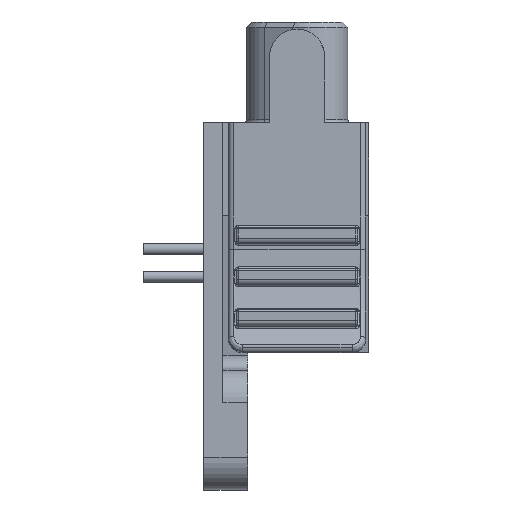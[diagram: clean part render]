
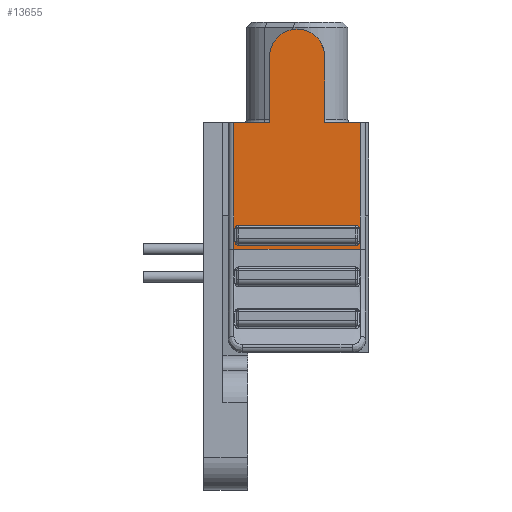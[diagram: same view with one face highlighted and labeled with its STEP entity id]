
A CAD part, left-side view. The second image highlights one B-rep face of the part: STEP entity #13655.
In plain terms, the highlighted planar face has unit normal (-1, 0, 0).
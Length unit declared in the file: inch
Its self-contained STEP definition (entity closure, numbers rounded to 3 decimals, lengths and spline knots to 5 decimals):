
#127 = DIRECTION ( 'NONE',  ( -1., 0., 0. ) ) ;
#763 = AXIS2_PLACEMENT_3D ( 'NONE', #32919, #4476, #32669 ) ;
#1817 = CARTESIAN_POINT ( 'NONE',  ( -0.5375, -0.125, 0.042 ) ) ;
#1842 = EDGE_CURVE ( 'NONE', #3802, #42665, #2123, .T. ) ;
#2123 = LINE ( 'NONE', #45032, #8630 ) ;
#2303 = VERTEX_POINT ( 'NONE', #26458 ) ;
#2315 = CARTESIAN_POINT ( 'NONE',  ( -0.5375, -0.125, -0.188 ) ) ;
#2532 = CARTESIAN_POINT ( 'NONE',  ( -0.5375, 0.05, 0.042 ) ) ;
#3000 = EDGE_CURVE ( 'NONE', #20419, #42665, #43263, .T. ) ;
#3088 = LINE ( 'NONE', #46217, #44270 ) ;
#3296 = CARTESIAN_POINT ( 'NONE',  ( -0.5375, -0.125, 0.042 ) ) ;
#3802 = VERTEX_POINT ( 'NONE', #31630 ) ;
#4375 = FACE_OUTER_BOUND ( 'NONE', #26433, .T. ) ;
#4476 = DIRECTION ( 'NONE',  ( -1., 0., 0. ) ) ;
#5308 = EDGE_CURVE ( 'NONE', #16321, #38365, #27336, .T. ) ;
#5436 = ORIENTED_EDGE ( 'NONE', *, *, #34212, .T. ) ;
#5633 = DIRECTION ( 'NONE',  ( 0., 0., 1. ) ) ;
#5682 = DIRECTION ( 'NONE',  ( 0., 0., -1. ) ) ;
#5783 = VECTOR ( 'NONE', #31889, 39.37008 ) ;
#6181 = CARTESIAN_POINT ( 'NONE',  ( -0.5375, -0.113, -0.151 ) ) ;
#6329 = VECTOR ( 'NONE', #21581, 39.37008 ) ;
#6763 = LINE ( 'NONE', #10488, #5783 ) ;
#7026 = DIRECTION ( 'NONE',  ( 0., 1., 0. ) ) ;
#7815 = CARTESIAN_POINT ( 'NONE',  ( -0.5375, 0.115, -0.188 ) ) ;
#8045 = LINE ( 'NONE', #7815, #31695 ) ;
#8075 = AXIS2_PLACEMENT_3D ( 'NONE', #29434, #127, #43695 ) ;
#8630 = VECTOR ( 'NONE', #44801, 39.37008 ) ;
#9074 = DIRECTION ( 'NONE',  ( 0., 1., 0. ) ) ;
#9774 = LINE ( 'NONE', #34677, #40121 ) ;
#9802 = ORIENTED_EDGE ( 'NONE', *, *, #5308, .F. ) ;
#9894 = CARTESIAN_POINT ( 'NONE',  ( -0.5375, -0.107, -0.151 ) ) ;
#10046 = VERTEX_POINT ( 'NONE', #28234 ) ;
#10320 = EDGE_CURVE ( 'NONE', #43984, #44120, #6763, .T. ) ;
#10488 = CARTESIAN_POINT ( 'NONE',  ( -0.5375, -0.05, 0.042 ) ) ;
#10701 = EDGE_LOOP ( 'NONE', ( #39204, #32415, #27211, #35247, #44289, #12318, #9802, #30741 ) ) ;
#11373 = EDGE_CURVE ( 'NONE', #35085, #2303, #33531, .T. ) ;
#11515 = DIRECTION ( 'NONE',  ( 0., 1., 0. ) ) ;
#11547 = CARTESIAN_POINT ( 'NONE',  ( -0.5375, 0.113, -0.151 ) ) ;
#11843 = PLANE ( 'NONE',  #42617 ) ;
#11925 = VERTEX_POINT ( 'NONE', #32087 ) ;
#12318 = ORIENTED_EDGE ( 'NONE', *, *, #15649, .T. ) ;
#13655 = ADVANCED_FACE ( 'NONE', ( #4375, #18697 ), #11843, .F. ) ;
#13959 = DIRECTION ( 'NONE',  ( 0., 1., 0. ) ) ;
#14031 = AXIS2_PLACEMENT_3D ( 'NONE', #9894, #30837, #31053 ) ;
#14075 = LINE ( 'NONE', #28451, #6329 ) ;
#14994 = CIRCLE ( 'NONE', #763, 0.05 ) ;
#15352 = CARTESIAN_POINT ( 'NONE',  ( -0.5375, -0.113, -0.175 ) ) ;
#15649 = EDGE_CURVE ( 'NONE', #20419, #38365, #14075, .T. ) ;
#16030 = AXIS2_PLACEMENT_3D ( 'NONE', #35339, #35802, #13959 ) ;
#16321 = VERTEX_POINT ( 'NONE', #33565 ) ;
#16346 = DIRECTION ( 'NONE',  ( 0., 0., -1. ) ) ;
#16840 = VERTEX_POINT ( 'NONE', #29959 ) ;
#17053 = DIRECTION ( 'NONE',  ( 1., 0., 0. ) ) ;
#17442 = VECTOR ( 'NONE', #23675, 39.37008 ) ;
#17909 = VERTEX_POINT ( 'NONE', #34867 ) ;
#18697 = FACE_BOUND ( 'NONE', #10701, .T. ) ;
#19329 = CARTESIAN_POINT ( 'NONE',  ( -0.5375, -0.125, -0.145 ) ) ;
#20419 = VERTEX_POINT ( 'NONE', #38385 ) ;
#20427 = CARTESIAN_POINT ( 'NONE',  ( -0.5375, 0.05, 0.042 ) ) ;
#21138 = VECTOR ( 'NONE', #7026, 39.37008 ) ;
#21556 = CARTESIAN_POINT ( 'NONE',  ( -0.5375, -0.05, 0.042 ) ) ;
#21581 = DIRECTION ( 'NONE',  ( 0., 0., 1. ) ) ;
#23213 = EDGE_CURVE ( 'NONE', #43984, #10046, #14994, .T. ) ;
#23490 = LINE ( 'NONE', #38277, #23506 ) ;
#23506 = VECTOR ( 'NONE', #5633, 39.37008 ) ;
#23532 = LINE ( 'NONE', #20427, #28723 ) ;
#23606 = ORIENTED_EDGE ( 'NONE', *, *, #24262, .T. ) ;
#23675 = DIRECTION ( 'NONE',  ( 0., 1., 0. ) ) ;
#24262 = EDGE_CURVE ( 'NONE', #16840, #44120, #28463, .T. ) ;
#24264 = AXIS2_PLACEMENT_3D ( 'NONE', #40669, #37167, #11515 ) ;
#25335 = EDGE_CURVE ( 'NONE', #11925, #30180, #30950, .T. ) ;
#25804 = EDGE_CURVE ( 'NONE', #3802, #31271, #45194, .T. ) ;
#26433 = EDGE_LOOP ( 'NONE', ( #42944, #30489, #23606, #46095, #31275, #43808, #5436, #39245 ) ) ;
#26454 = DIRECTION ( 'NONE',  ( 0., -1., 0. ) ) ;
#26458 = CARTESIAN_POINT ( 'NONE',  ( -0.5375, -0.107, -0.145 ) ) ;
#27211 = ORIENTED_EDGE ( 'NONE', *, *, #25804, .F. ) ;
#27336 = CIRCLE ( 'NONE', #16030, 0.006 ) ;
#28234 = CARTESIAN_POINT ( 'NONE',  ( -0.5375, 0.05, 0.162 ) ) ;
#28451 = CARTESIAN_POINT ( 'NONE',  ( -0.5375, 0.113, 0.042 ) ) ;
#28463 = LINE ( 'NONE', #3296, #21138 ) ;
#28723 = VECTOR ( 'NONE', #5682, 39.37008 ) ;
#29101 = CARTESIAN_POINT ( 'NONE',  ( -0.5375, 0.107, -0.181 ) ) ;
#29434 = CARTESIAN_POINT ( 'NONE',  ( -0.5375, 0.107, -0.175 ) ) ;
#29631 = EDGE_CURVE ( 'NONE', #16321, #2303, #33908, .T. ) ;
#29782 = CARTESIAN_POINT ( 'NONE',  ( -0.5375, 0.115, -0.188 ) ) ;
#29959 = CARTESIAN_POINT ( 'NONE',  ( -0.5375, -0.115, 0.042 ) ) ;
#30180 = VERTEX_POINT ( 'NONE', #29782 ) ;
#30263 = EDGE_CURVE ( 'NONE', #35085, #31271, #9774, .T. ) ;
#30408 = VERTEX_POINT ( 'NONE', #2532 ) ;
#30489 = ORIENTED_EDGE ( 'NONE', *, *, #44079, .T. ) ;
#30741 = ORIENTED_EDGE ( 'NONE', *, *, #29631, .T. ) ;
#30837 = DIRECTION ( 'NONE',  ( -1., 0., 0. ) ) ;
#30950 = LINE ( 'NONE', #2315, #17442 ) ;
#31053 = DIRECTION ( 'NONE',  ( 0., 1., 0. ) ) ;
#31271 = VERTEX_POINT ( 'NONE', #15352 ) ;
#31275 = ORIENTED_EDGE ( 'NONE', *, *, #23213, .T. ) ;
#31630 = CARTESIAN_POINT ( 'NONE',  ( -0.5375, -0.107, -0.181 ) ) ;
#31695 = VECTOR ( 'NONE', #43239, 39.37008 ) ;
#31889 = DIRECTION ( 'NONE',  ( 0., 0., -1. ) ) ;
#32087 = CARTESIAN_POINT ( 'NONE',  ( -0.5375, -0.115, -0.188 ) ) ;
#32179 = DIRECTION ( 'NONE',  ( 0., 1., 0. ) ) ;
#32415 = ORIENTED_EDGE ( 'NONE', *, *, #30263, .T. ) ;
#32669 = DIRECTION ( 'NONE',  ( 0., -1., 0. ) ) ;
#32919 = CARTESIAN_POINT ( 'NONE',  ( -0.5375, 0., 0.162 ) ) ;
#33342 = VECTOR ( 'NONE', #26454, 39.37008 ) ;
#33351 = CARTESIAN_POINT ( 'NONE',  ( -0.5375, -0.05, 0.162 ) ) ;
#33531 = CIRCLE ( 'NONE', #14031, 0.006 ) ;
#33565 = CARTESIAN_POINT ( 'NONE',  ( -0.5375, 0.107, -0.145 ) ) ;
#33908 = LINE ( 'NONE', #19329, #33342 ) ;
#34212 = EDGE_CURVE ( 'NONE', #30408, #17909, #3088, .T. ) ;
#34677 = CARTESIAN_POINT ( 'NONE',  ( -0.5375, -0.113, -0.178 ) ) ;
#34867 = CARTESIAN_POINT ( 'NONE',  ( -0.5375, 0.115, 0.042 ) ) ;
#35085 = VERTEX_POINT ( 'NONE', #6181 ) ;
#35247 = ORIENTED_EDGE ( 'NONE', *, *, #1842, .T. ) ;
#35334 = EDGE_CURVE ( 'NONE', #10046, #30408, #23532, .T. ) ;
#35339 = CARTESIAN_POINT ( 'NONE',  ( -0.5375, 0.107, -0.151 ) ) ;
#35802 = DIRECTION ( 'NONE',  ( -1., 0., 0. ) ) ;
#37167 = DIRECTION ( 'NONE',  ( -1., 0., 0. ) ) ;
#38277 = CARTESIAN_POINT ( 'NONE',  ( -0.5375, -0.115, 0.042 ) ) ;
#38365 = VERTEX_POINT ( 'NONE', #11547 ) ;
#38385 = CARTESIAN_POINT ( 'NONE',  ( -0.5375, 0.113, -0.175 ) ) ;
#39204 = ORIENTED_EDGE ( 'NONE', *, *, #11373, .F. ) ;
#39245 = ORIENTED_EDGE ( 'NONE', *, *, #42072, .T. ) ;
#40121 = VECTOR ( 'NONE', #16346, 39.37008 ) ;
#40669 = CARTESIAN_POINT ( 'NONE',  ( -0.5375, -0.107, -0.175 ) ) ;
#42072 = EDGE_CURVE ( 'NONE', #17909, #30180, #8045, .T. ) ;
#42617 = AXIS2_PLACEMENT_3D ( 'NONE', #1817, #17053, #9074 ) ;
#42665 = VERTEX_POINT ( 'NONE', #29101 ) ;
#42944 = ORIENTED_EDGE ( 'NONE', *, *, #25335, .F. ) ;
#43239 = DIRECTION ( 'NONE',  ( 0., 0., -1. ) ) ;
#43263 = CIRCLE ( 'NONE', #8075, 0.006 ) ;
#43695 = DIRECTION ( 'NONE',  ( 0., 1., 0. ) ) ;
#43808 = ORIENTED_EDGE ( 'NONE', *, *, #35334, .T. ) ;
#43984 = VERTEX_POINT ( 'NONE', #33351 ) ;
#44079 = EDGE_CURVE ( 'NONE', #11925, #16840, #23490, .T. ) ;
#44120 = VERTEX_POINT ( 'NONE', #21556 ) ;
#44270 = VECTOR ( 'NONE', #32179, 39.37008 ) ;
#44289 = ORIENTED_EDGE ( 'NONE', *, *, #3000, .F. ) ;
#44801 = DIRECTION ( 'NONE',  ( 0., 1., 0. ) ) ;
#45032 = CARTESIAN_POINT ( 'NONE',  ( -0.5375, -0.125, -0.181 ) ) ;
#45194 = CIRCLE ( 'NONE', #24264, 0.006 ) ;
#46095 = ORIENTED_EDGE ( 'NONE', *, *, #10320, .F. ) ;
#46217 = CARTESIAN_POINT ( 'NONE',  ( -0.5375, -0.125, 0.042 ) ) ;
